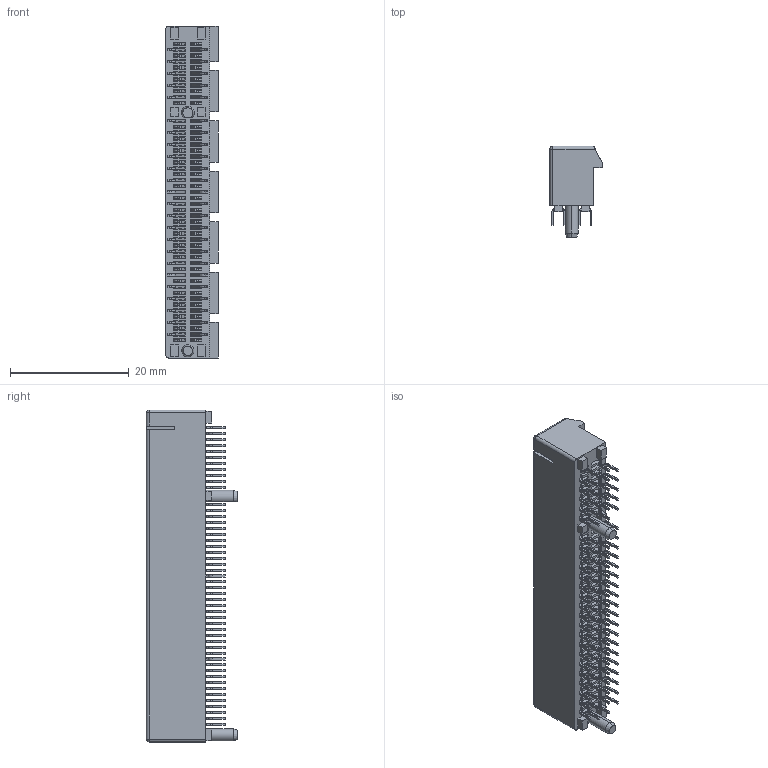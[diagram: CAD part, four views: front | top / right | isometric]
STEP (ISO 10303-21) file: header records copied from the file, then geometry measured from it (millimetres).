
FILE_DESCRIPTION (( 'STEP AP203' ), '1' );
FILE_NAME ('TE PCIe Express x8 (2.3mm Pins).STEP', '2015-01-12T00:36:26', ( '' ), ( '' ), 'SwSTEP 2.0', 'SolidWorks 2013', '' );
FILE_SCHEMA (( 'CONFIG_CONTROL_DESIGN' ));
Length unit declared in the file: millimetre
Products named in the file (4): PCIe Body_PCIe x8; Pins_Internal Pin (Short); Pins_External Pin (Short); TE PCIe Express x8 (2.3mm Pins)
Assembly tree (99 placements, depth 2):
  TE PCIe Express x8 (2.3mm Pins)
    PCIe Body_PCIe x8
    Pins_Internal Pin (Short)  x50
    Pins_External Pin (Short)  x48
Bounding box: 8.8 x 15.4 x 56 mm (x, y, z)
Volume: 2839.6 mm3; surface area: 8358 mm2
Topology: 99 solids, 99 shells, 3540 faces, 10555 edges, 7025 vertices
Faces by surface type: plane 2348, cylinder 1186, cone 4, sphere 2
Entity records: 42663 total; most frequent: ORIENTED_EDGE 7282, CARTESIAN_POINT 7220, DIRECTION 5999, EDGE_CURVE 3641, VECTOR 3567, LINE 3567, VERTEX_POINT 2417, EDGE_LOOP 1250
